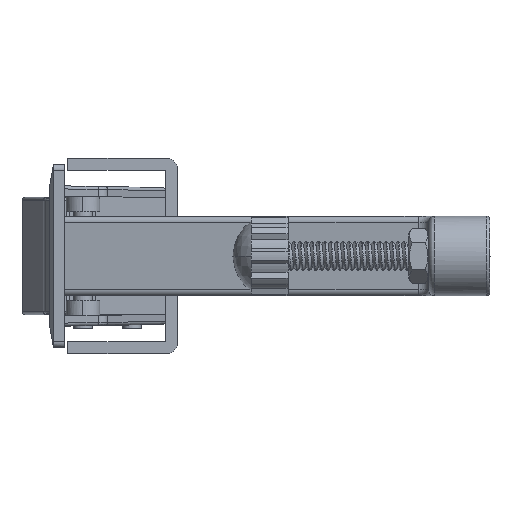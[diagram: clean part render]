
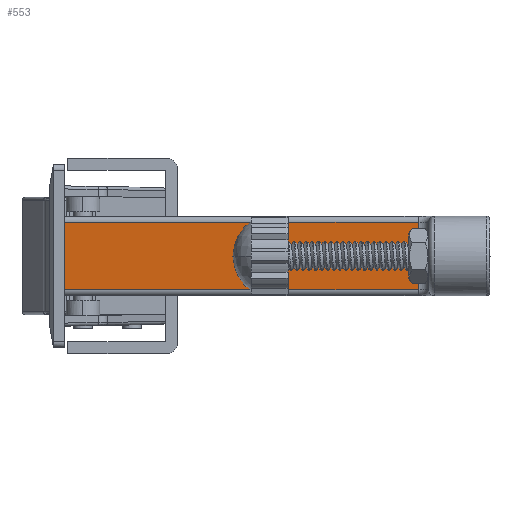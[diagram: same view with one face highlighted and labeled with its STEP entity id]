
A CAD part, left-side view. The second image highlights one B-rep face of the part: STEP entity #553.
In plain terms, the highlighted planar face has unit normal (-0.991, 0.137, 0) as drawn and (0, 0.991, -0.137) by its records, which use the part's own axes.
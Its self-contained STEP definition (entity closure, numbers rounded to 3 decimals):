
#553 = ADVANCED_FACE ( 'NONE', ( #2488 ), #5213, .T. ) ;
#2149 = DIRECTION ( 'NONE',  ( 1., 0., 0. ) ) ;
#2488 = FACE_OUTER_BOUND ( 'NONE', #32620, .T. ) ;
#3066 = CARTESIAN_POINT ( 'NONE',  ( -5.5, 165.301, -109.992 ) ) ;
#4215 = EDGE_CURVE ( 'NONE', #16482, #30355, #4239, .T. ) ;
#4239 = LINE ( 'NONE', #23237, #24179 ) ;
#5213 = PLANE ( 'NONE',  #31581 ) ;
#7464 = DIRECTION ( 'NONE',  ( 0., 0.137, 0.991 ) ) ;
#8578 = DIRECTION ( 'NONE',  ( -1., 0., 0. ) ) ;
#9010 = CARTESIAN_POINT ( 'NONE',  ( -5.5, 173.276, -52.176 ) ) ;
#9411 = CARTESIAN_POINT ( 'NONE',  ( 5.5, 165.301, -109.992 ) ) ;
#9586 = DIRECTION ( 'NONE',  ( 0., 0.991, -0.137 ) ) ;
#9823 = VECTOR ( 'NONE', #27986, 1000. ) ;
#10277 = CARTESIAN_POINT ( 'NONE',  ( -5.5, 173.276, -52.176 ) ) ;
#10863 = CARTESIAN_POINT ( 'NONE',  ( -5.5, 173.276, -52.176 ) ) ;
#11775 = LINE ( 'NONE', #26422, #20202 ) ;
#14684 = EDGE_CURVE ( 'NONE', #16482, #20339, #11775, .T. ) ;
#14782 = VERTEX_POINT ( 'NONE', #10277 ) ;
#16158 = ORIENTED_EDGE ( 'NONE', *, *, #28725, .F. ) ;
#16482 = VERTEX_POINT ( 'NONE', #9411 ) ;
#20202 = VECTOR ( 'NONE', #7464, 1000. ) ;
#20339 = VERTEX_POINT ( 'NONE', #29810 ) ;
#21077 = EDGE_CURVE ( 'NONE', #14782, #20339, #29822, .T. ) ;
#22978 = ORIENTED_EDGE ( 'NONE', *, *, #14684, .F. ) ;
#23237 = CARTESIAN_POINT ( 'NONE',  ( 5.5, 165.301, -109.992 ) ) ;
#23650 = LINE ( 'NONE', #9010, #9823 ) ;
#24031 = ORIENTED_EDGE ( 'NONE', *, *, #4215, .T. ) ;
#24179 = VECTOR ( 'NONE', #8578, 1000. ) ;
#24193 = CARTESIAN_POINT ( 'NONE',  ( -6.5, 165.169, -110.945 ) ) ;
#26422 = CARTESIAN_POINT ( 'NONE',  ( 5.5, 165.301, -109.992 ) ) ;
#27986 = DIRECTION ( 'NONE',  ( 0., -0.137, -0.991 ) ) ;
#28544 = DIRECTION ( 'NONE',  ( -1., 0., 0. ) ) ;
#28725 = EDGE_CURVE ( 'NONE', #14782, #30355, #23650, .T. ) ;
#29810 = CARTESIAN_POINT ( 'NONE',  ( 5.5, 173.276, -52.176 ) ) ;
#29822 = LINE ( 'NONE', #10863, #32911 ) ;
#30355 = VERTEX_POINT ( 'NONE', #3066 ) ;
#31581 = AXIS2_PLACEMENT_3D ( 'NONE', #24193, #9586, #28544 ) ;
#31687 = ORIENTED_EDGE ( 'NONE', *, *, #21077, .T. ) ;
#32620 = EDGE_LOOP ( 'NONE', ( #31687, #22978, #24031, #16158 ) ) ;
#32911 = VECTOR ( 'NONE', #2149, 1000. ) ;
